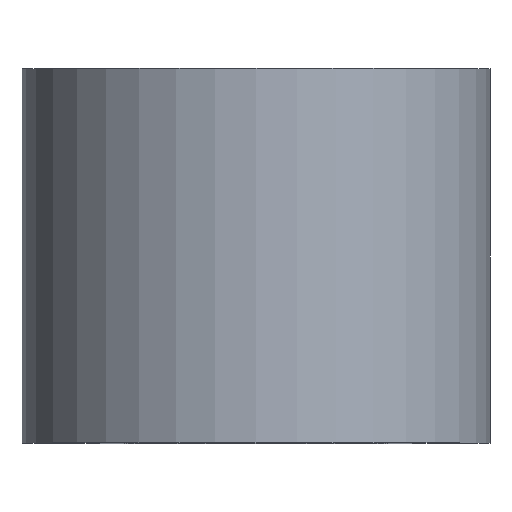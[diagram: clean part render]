
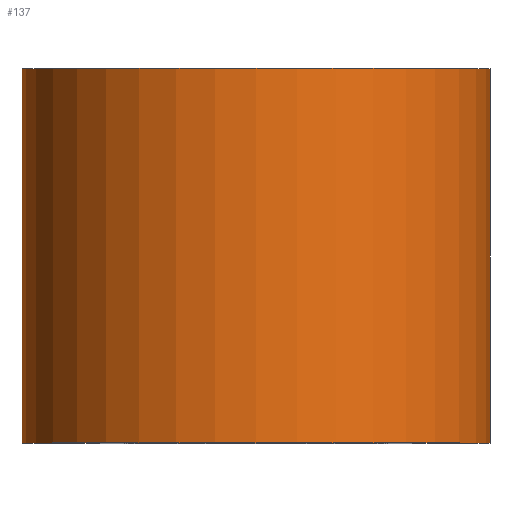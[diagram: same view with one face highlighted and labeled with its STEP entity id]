
A CAD part, top view. The second image highlights one B-rep face of the part: STEP entity #137.
In plain terms, the highlighted cylindrical face has radius 7.5 mm (diameter 15 mm), a partial arc.
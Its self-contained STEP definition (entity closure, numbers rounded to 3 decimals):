
#9 = CARTESIAN_POINT ( 'NONE',  ( -7.5, 12., 0. ) ) ;
#14 = CARTESIAN_POINT ( 'NONE',  ( 7.5, 0., 0. ) ) ;
#20 = EDGE_LOOP ( 'NONE', ( #152, #131, #252, #269 ) ) ;
#30 = CARTESIAN_POINT ( 'NONE',  ( -7.5, 0., 0. ) ) ;
#35 = DIRECTION ( 'NONE',  ( -1., 0., 0. ) ) ;
#38 = DIRECTION ( 'NONE',  ( -1., 0., 0. ) ) ;
#68 = CIRCLE ( 'NONE', #280, 7.5 ) ;
#72 = EDGE_CURVE ( 'NONE', #257, #117, #162, .T. ) ;
#78 = VERTEX_POINT ( 'NONE', #188 ) ;
#88 = LINE ( 'NONE', #14, #229 ) ;
#97 = DIRECTION ( 'NONE',  ( 0., 1., 0. ) ) ;
#104 = CARTESIAN_POINT ( 'NONE',  ( -7.5, 0., 0. ) ) ;
#111 = FACE_OUTER_BOUND ( 'NONE', #20, .T. ) ;
#116 = DIRECTION ( 'NONE',  ( 0., 1., 0. ) ) ;
#117 = VERTEX_POINT ( 'NONE', #9 ) ;
#120 = DIRECTION ( 'NONE',  ( 0., 1., 0. ) ) ;
#122 = VECTOR ( 'NONE', #116, 1000. ) ;
#127 = VERTEX_POINT ( 'NONE', #237 ) ;
#130 = EDGE_CURVE ( 'NONE', #257, #127, #68, .T. ) ;
#131 = ORIENTED_EDGE ( 'NONE', *, *, #180, .T. ) ;
#136 = EDGE_CURVE ( 'NONE', #117, #78, #139, .T. ) ;
#137 = ADVANCED_FACE ( 'NONE', ( #111 ), #240, .T. ) ;
#139 = CIRCLE ( 'NONE', #192, 7.5 ) ;
#152 = ORIENTED_EDGE ( 'NONE', *, *, #130, .T. ) ;
#155 = DIRECTION ( 'NONE',  ( -1., 0., 0. ) ) ;
#162 = LINE ( 'NONE', #30, #122 ) ;
#175 = CARTESIAN_POINT ( 'NONE',  ( 0., 12., 0. ) ) ;
#180 = EDGE_CURVE ( 'NONE', #127, #78, #88, .T. ) ;
#186 = CARTESIAN_POINT ( 'NONE',  ( 0., 0., 0. ) ) ;
#188 = CARTESIAN_POINT ( 'NONE',  ( 7.5, 12., 0. ) ) ;
#192 = AXIS2_PLACEMENT_3D ( 'NONE', #175, #246, #155 ) ;
#210 = CARTESIAN_POINT ( 'NONE',  ( 0., 0., 0. ) ) ;
#229 = VECTOR ( 'NONE', #97, 1000. ) ;
#237 = CARTESIAN_POINT ( 'NONE',  ( 7.5, 0., 0. ) ) ;
#240 = CYLINDRICAL_SURFACE ( 'NONE', #242, 7.5 ) ;
#242 = AXIS2_PLACEMENT_3D ( 'NONE', #210, #262, #38 ) ;
#246 = DIRECTION ( 'NONE',  ( 0., 1., 0. ) ) ;
#252 = ORIENTED_EDGE ( 'NONE', *, *, #136, .F. ) ;
#257 = VERTEX_POINT ( 'NONE', #104 ) ;
#262 = DIRECTION ( 'NONE',  ( 0., 1., 0. ) ) ;
#269 = ORIENTED_EDGE ( 'NONE', *, *, #72, .F. ) ;
#280 = AXIS2_PLACEMENT_3D ( 'NONE', #186, #120, #35 ) ;
